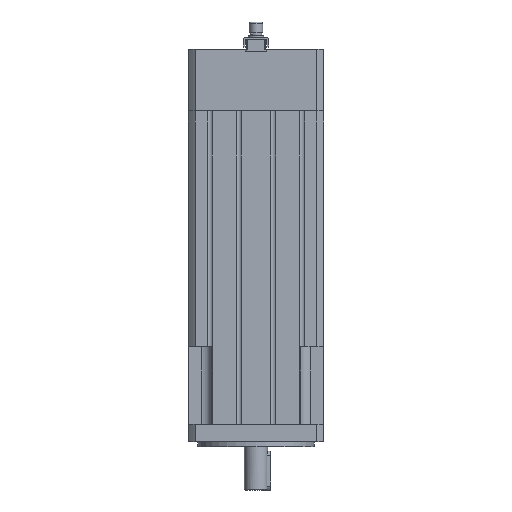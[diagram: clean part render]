
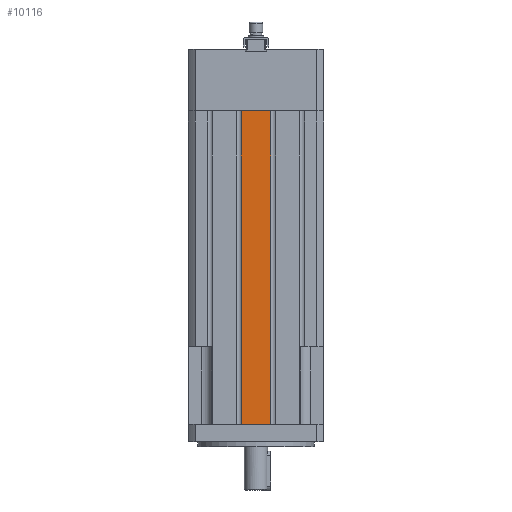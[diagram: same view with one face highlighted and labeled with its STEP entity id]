
A CAD part, front view. The second image highlights one B-rep face of the part: STEP entity #10116.
In plain terms, the highlighted planar face has unit normal (0, -1, 0).
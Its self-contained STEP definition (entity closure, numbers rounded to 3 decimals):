
#151 = CARTESIAN_POINT ( 'NONE',  ( -7.547, -35., 162. ) ) ;
#294 = LINE ( 'NONE', #3401, #8144 ) ;
#324 = LINE ( 'NONE', #6798, #7227 ) ;
#862 = VERTEX_POINT ( 'NONE', #2377 ) ;
#868 = ORIENTED_EDGE ( 'NONE', *, *, #13196, .F. ) ;
#1083 = PLANE ( 'NONE',  #6799 ) ;
#1889 = CARTESIAN_POINT ( 'NONE',  ( -7.547, -35., 0. ) ) ;
#2172 = FACE_OUTER_BOUND ( 'NONE', #13266, .T. ) ;
#2240 = DIRECTION ( 'NONE',  ( 0., 1., 0. ) ) ;
#2345 = EDGE_CURVE ( 'NONE', #11451, #3497, #2961, .T. ) ;
#2377 = CARTESIAN_POINT ( 'NONE',  ( 7.547, -35., 162. ) ) ;
#2434 = VECTOR ( 'NONE', #8199, 1000. ) ;
#2961 = LINE ( 'NONE', #1889, #4458 ) ;
#2987 = ORIENTED_EDGE ( 'NONE', *, *, #5823, .F. ) ;
#3401 = CARTESIAN_POINT ( 'NONE',  ( -7.547, -35., 162. ) ) ;
#3497 = VERTEX_POINT ( 'NONE', #8102 ) ;
#4458 = VECTOR ( 'NONE', #6008, 1000. ) ;
#4503 = DIRECTION ( 'NONE',  ( 1., 0., 0. ) ) ;
#4815 = ORIENTED_EDGE ( 'NONE', *, *, #2345, .T. ) ;
#5823 = EDGE_CURVE ( 'NONE', #6019, #862, #324, .T. ) ;
#6008 = DIRECTION ( 'NONE',  ( 1., 0., 0. ) ) ;
#6019 = VERTEX_POINT ( 'NONE', #12480 ) ;
#6366 = DIRECTION ( 'NONE',  ( 0., 0., 1. ) ) ;
#6730 = CARTESIAN_POINT ( 'NONE',  ( 7.547, -35., 162. ) ) ;
#6798 = CARTESIAN_POINT ( 'NONE',  ( -7.547, -35., 162. ) ) ;
#6799 = AXIS2_PLACEMENT_3D ( 'NONE', #151, #2240, #6366 ) ;
#7227 = VECTOR ( 'NONE', #4503, 1000. ) ;
#7522 = DIRECTION ( 'NONE',  ( 0., 0., -1. ) ) ;
#7749 = LINE ( 'NONE', #6730, #2434 ) ;
#7803 = EDGE_CURVE ( 'NONE', #6019, #11451, #294, .T. ) ;
#8102 = CARTESIAN_POINT ( 'NONE',  ( 7.547, -35., 0. ) ) ;
#8144 = VECTOR ( 'NONE', #7522, 1000. ) ;
#8199 = DIRECTION ( 'NONE',  ( 0., 0., -1. ) ) ;
#8262 = CARTESIAN_POINT ( 'NONE',  ( -7.547, -35., 0. ) ) ;
#10116 = ADVANCED_FACE ( 'NONE', ( #2172 ), #1083, .F. ) ;
#11451 = VERTEX_POINT ( 'NONE', #8262 ) ;
#12404 = ORIENTED_EDGE ( 'NONE', *, *, #7803, .T. ) ;
#12480 = CARTESIAN_POINT ( 'NONE',  ( -7.547, -35., 162. ) ) ;
#13196 = EDGE_CURVE ( 'NONE', #862, #3497, #7749, .T. ) ;
#13266 = EDGE_LOOP ( 'NONE', ( #4815, #868, #2987, #12404 ) ) ;
